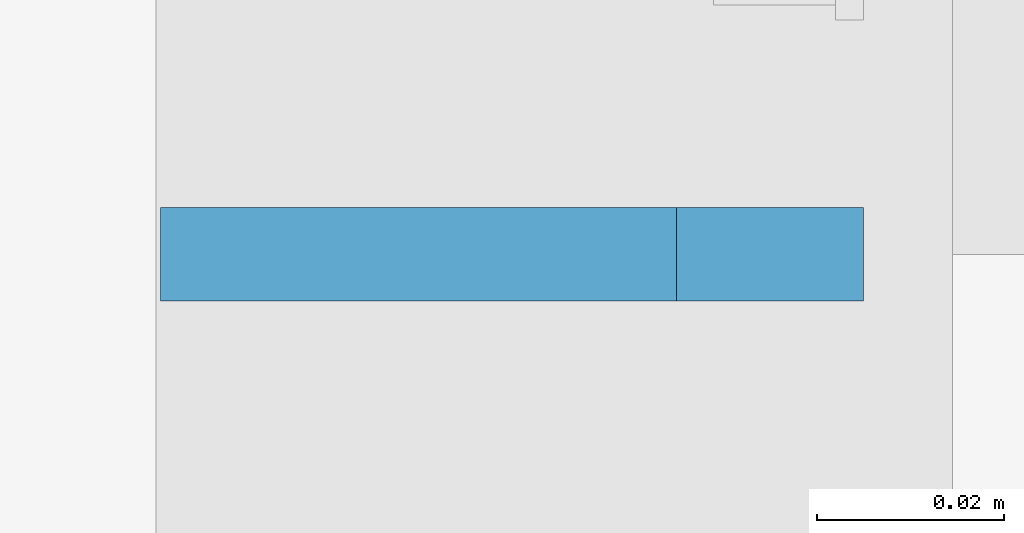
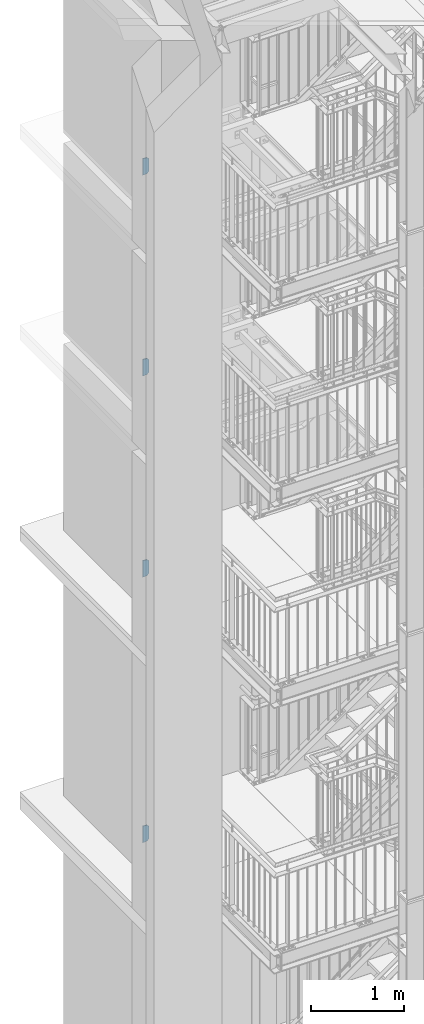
# One storey, part 180 of 831: 4 plates, 8 openings.
"""IFC2X3 building model written with IfcOpenShell, lengths in millimetres."""

import ifcopenshell
import ifcopenshell.guid

model = None  # the IFC model being written
_history = None  # IfcOwnerHistory: only IFC2X3 demands one
_inside = {}  # id of a spatial element -> (the spatial element, [elements in it])
_under = {}  # id of a project, library or spatial element -> (it, [spatial elements below it])
_declared = {}  # id of a project -> (the project, [libraries it declares])
_typed = {}  # id of a type object -> (the type object, [elements of that type])
_made_of = {}  # id of a material, layer set ... -> (it, [elements and type objects made of it])


def new_model(schema):
    """Start an empty IFC model of exactly this schema.

    Asked for "IFC4X3", IfcOpenShell would pick the latest addendum, in which some entities
    have other attributes; the version numbers below select the first issue.
    IFC2X3 requires an IfcOwnerHistory on every rooted entity: one is made here for all.
    """
    global model, _history
    if schema == "IFC4X3":
        model = ifcopenshell.file(schema_version=(4, 3, 0, 0))
    else:
        model = ifcopenshell.file(schema=schema)
    _inside.clear()
    _under.clear()
    _declared.clear()
    _typed.clear()
    _made_of.clear()
    _history = None
    if model.schema == "IFC2X3":
        org = make("IfcOrganization", Name="unknown")
        user = make(
            "IfcPersonAndOrganization",
            ThePerson=make("IfcPerson", FamilyName="unknown"),
            TheOrganization=org,
        )
        app = make(
            "IfcApplication",
            ApplicationDeveloper=org,
            Version="unknown",
            ApplicationFullName="unknown",
            ApplicationIdentifier="unknown",
        )
        _history = make(
            "IfcOwnerHistory",
            OwningUser=user,
            OwningApplication=app,
            ChangeAction="ADDED",
            CreationDate=0,
        )
    return model


def make(cls, **values):
    """One entity of the class cls with the attributes given. An attribute that is None is left unset."""
    return model.create_entity(
        cls, **{name: value for name, value in values.items() if value is not None}
    )


def entity(cls, *values):
    """Any entity or typed value of the class cls, its attributes in the order of the schema. None: left unset."""
    e = model.create_entity(cls)
    for i, value in enumerate(values):
        if value is not None:
            e[i] = value
    return e


def rooted(cls, **values):
    """An entity with a GlobalId (a new one), such as an element, a storey or a relation."""
    return make(cls, GlobalId=ifcopenshell.guid.new(), OwnerHistory=_history, **values)


def si_unit(unit_type, name, prefix=None):
    """IfcSIUnit, for example si_unit("LENGTHUNIT", "METRE", prefix="MILLI")."""
    return make("IfcSIUnit", UnitType=unit_type, Prefix=prefix, Name=name)


def converted_unit(unit_type, name, factor, base, dimensions=None, offset=None):
    """IfcConversionBasedUnit, such as the inch: factor (a typed value) times the base unit."""
    return make(
        "IfcConversionBasedUnit"
        if offset is None
        else "IfcConversionBasedUnitWithOffset",
        ConversionOffset=offset,
        Dimensions=None
        if dimensions is None
        else entity("IfcDimensionalExponents", *dimensions),
        UnitType=unit_type,
        Name=name,
        ConversionFactor=make(
            "IfcMeasureWithUnit", ValueComponent=factor, UnitComponent=base
        ),
    )


def assignment(units):
    """IfcUnitAssignment: the units of a project."""
    return None if units is None else make("IfcUnitAssignment", Units=units)


def point(xyz):
    """IfcCartesianPoint."""
    return None if xyz is None else make("IfcCartesianPoint", Coordinates=xyz)


def direction(xyz):
    """IfcDirection."""
    return None if xyz is None else make("IfcDirection", DirectionRatios=xyz)


def frame(location, z_axis=None, x_axis=None):
    """IfcAxis2Placement3D, a coordinate frame: its origin and axes. An axis left out is left unset."""
    return make(
        "IfcAxis2Placement3D",
        Location=point(location),
        Axis=direction(z_axis),
        RefDirection=direction(x_axis),
    )


def origin():
    """The frame at (0, 0, 0) with its axes left unset."""
    return frame((0.0, 0.0, 0.0))


def origin_with_axes():
    """The frame at (0, 0, 0) with the z axis (0, 0, 1) and the x axis (1, 0, 0) written out."""
    return frame((0.0, 0.0, 0.0), z_axis=(0.0, 0.0, 1.0), x_axis=(1.0, 0.0, 0.0))


def place(relative_to, where):
    """IfcLocalPlacement: puts the frame where relative to a parent placement (None: the world)."""
    return make(
        "IfcLocalPlacement", PlacementRelTo=relative_to, RelativePlacement=where
    )


def context(
    kind, dimensions, precision=None, world=None, true_north=None, identifier=None
):
    """IfcGeometricRepresentationContext, for example the 3D "Model" context."""
    return make(
        "IfcGeometricRepresentationContext",
        ContextIdentifier=identifier,
        ContextType=kind,
        CoordinateSpaceDimension=dimensions,
        Precision=precision,
        WorldCoordinateSystem=world,
        TrueNorth=true_north,
    )


def project(units=None, contexts=None):
    """IfcProject with its units and contexts."""
    return rooted(
        "IfcProject",
        Name="project",
        RepresentationContexts=contexts,
        UnitsInContext=assignment(units),
    )


def spatial(cls, under=None, at=None, **own):
    """A site, building, storey or space (cls), placed at a placement, below another one or the project."""
    s = rooted(cls, ObjectPlacement=at, **own)
    if under is not None:
        _under.setdefault(under.id(), (under, []))[1].append(s)
    return s


def polyline(points):
    """IfcPolyline through the points."""
    return make("IfcPolyline", Points=[point(p) for p in points])


def outline(outer, holes=None, kind="AREA"):
    """IfcArbitraryClosedProfileDef: a profile drawn as a closed curve; with holes, ...WithVoids."""
    if holes is None:
        return make("IfcArbitraryClosedProfileDef", ProfileType=kind, OuterCurve=outer)
    return make(
        "IfcArbitraryProfileDefWithVoids",
        ProfileType=kind,
        OuterCurve=outer,
        InnerCurves=holes,
    )


def extrude(swept, where, along, depth):
    """IfcExtrudedAreaSolid: the profile swept, set in the frame where, extruded along a direction by depth."""
    return make(
        "IfcExtrudedAreaSolid",
        SweptArea=swept,
        Position=where,
        ExtrudedDirection=direction(along),
        Depth=depth,
    )


def shape(context_of_items, identifier, shape_type, items):
    """IfcShapeRepresentation: the items that make up one representation, for example the "Body"."""
    return make(
        "IfcShapeRepresentation",
        ContextOfItems=context_of_items,
        RepresentationIdentifier=identifier,
        RepresentationType=shape_type,
        Items=items,
    )


def material(Name=None, Category=None):
    """IfcMaterial."""
    return make("IfcMaterial", Name=Name, Category=Category)


def layer(
    of_material, thickness, ventilated=None, Name=None, Category=None, Priority=None
):
    """IfcMaterialLayer: one layer of a wall or slab, of a material (None: an air gap)."""
    return make(
        "IfcMaterialLayer",
        Material=of_material,
        LayerThickness=thickness,
        IsVentilated=ventilated,
        Name=Name,
        Category=Category,
        Priority=Priority,
    )


def layer_set(layers, Name=None):
    """IfcMaterialLayerSet."""
    return make("IfcMaterialLayerSet", MaterialLayers=layers, LayerSetName=Name)


def made_of(thing, what):
    """Note that an element or type object is made of a material, layer set ...; save() writes the relation."""
    if what is not None:
        _made_of.setdefault(what.id(), (what, []))[1].append(thing)
    return thing


def element(
    cls,
    number,
    at=None,
    inside=None,
    cuts=None,
    type_object=None,
    material=None,
    context=None,
    identifier="Body",
    shape_type=None,
    held_by="IfcProductDefinitionShape",
    body=None,
    shapes=None,
    **own,
):
    """One element of the class cls, such as IfcWall. Its Tag is "e" and its number.

    at: its placement. inside: the storey or other place that contains it. cuts: it is an
    opening in that element (IfcRelVoidsElement). A single representation is given by context,
    identifier, shape_type and body (its items); several are given by shapes. held_by: the class
    of the entity that holds the representations. save() writes the other relations.
    """
    e = rooted(cls, Tag="e%d" % number, ObjectPlacement=at, **own)
    if body is not None:
        shapes = [shape(context, identifier, shape_type, body)]
    if shapes is not None:
        e.Representation = make(held_by, Representations=shapes)
    if inside is not None:
        _inside.setdefault(inside.id(), (inside, []))[1].append(e)
    if cuts is not None:
        rooted(
            "IfcRelVoidsElement", RelatingBuildingElement=cuts, RelatedOpeningElement=e
        )
    if type_object is not None:
        _typed.setdefault(type_object.id(), (type_object, []))[1].append(e)
    return made_of(e, material)


def aggregate(whole, parts):
    """IfcRelAggregates: a whole, such as a stair, and the parts it consists of."""
    return rooted("IfcRelAggregates", RelatingObject=whole, RelatedObjects=parts)


def save(model, path):
    """Write the relations noted so far, then the file.

    IfcRelAggregates (storeys below a building ...), IfcRelContainedInSpatialStructure (elements
    in a storey), IfcRelDefinesByType, IfcRelAssociatesMaterial and IfcRelDeclares: one each for
    every whole, place, type object, material and project.
    """
    for whole, parts in _under.values():
        aggregate(whole, parts)
    for where, things in _inside.values():
        rooted(
            "IfcRelContainedInSpatialStructure",
            RelatedElements=things,
            RelatingStructure=where,
        )
    for kind, things in _typed.values():
        rooted("IfcRelDefinesByType", RelatedObjects=things, RelatingType=kind)
    for what, things in _made_of.values():
        rooted("IfcRelAssociatesMaterial", RelatedObjects=things, RelatingMaterial=what)
    for by, libraries in _declared.values():
        rooted("IfcRelDeclares", RelatingContext=by, RelatedDefinitions=libraries)
    model.write(path)


model = new_model("IFC2X3")

# Units and contexts
model_context = context("Model", 3, precision=1e-09, world=origin_with_axes())
ifc_project = project(units=[si_unit("LENGTHUNIT", "METRE", prefix="MILLI"), si_unit("AREAUNIT", "SQUARE_METRE"), si_unit("VOLUMEUNIT", "CUBIC_METRE"), converted_unit("PLANEANGLEUNIT", "DEGREE", entity("IfcPlaneAngleMeasure", 0.01745329), si_unit("PLANEANGLEUNIT", "RADIAN"), dimensions=[0, 0, 0, 0, 0, 0, 0])], contexts=[model_context])

# Site, building, storey
site_placement = place(None, origin_with_axes())
site = spatial("IfcSite", under=ifc_project, at=site_placement, Name="Site", CompositionType="ELEMENT")
building_placement = place(site_placement, origin_with_axes())
building = spatial("IfcBuilding", under=site, at=building_placement, Name="Struktur 1", CompositionType="ELEMENT")
storey_placement = place(building_placement, origin_with_axes())
storey = spatial("IfcBuildingStorey", under=building, at=storey_placement, Name="Default Storey", CompositionType="ELEMENT", Elevation=0.0)

# Plate, openings
ifc_material = material(Name="S235JR")
ifc_layer = layer(ifc_material, 10.0)
ifc_layer_set = layer_set([ifc_layer], Name="S235JR")
plate_1_placement = place(None, frame((3312.213402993, 7316.736971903, 3829.855161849), z_axis=(0.0, -1.0, 0.0), x_axis=(-0.996815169, 0.0, 0.079746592)))
plate_1 = element("IfcPlate", 1, at=plate_1_placement, inside=storey, material=ifc_layer_set, Name="Stiffener#1", ObjectType="Stiffener#1", context=model_context, shape_type="SweptSolid", body=[
    extrude(outline(polyline([(0.0, 0.0), (75.239625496, 0.0), (57.877952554, 217.017159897), (-16.404697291, 205.05517107), (0.0, 0.0)])), origin_with_axes(), (0.0, 0.0, 1.0), 10.0),
])
opening_1_placement = place(plate_1_placement, frame((0.0, 0.0, -0.01), z_axis=(0.0, 0.0, 1.0), x_axis=(1.0, 0.0, 0.0)))
element("IfcOpeningElement", 2, at=opening_1_placement, cuts=plate_1, ObjectType="Opening", context=model_context, shape_type="SweptSolid", body=[
    extrude(outline(polyline([(-16.404697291, 205.05517107), (-14.809765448, 185.118867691), (3.34092195, 208.23487558), (-16.404697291, 205.05517107)])), origin(), (0.0, 0.0, 1.0), 10.02),
])
opening_2_placement = place(plate_1_placement, frame((0.0, 0.0, -0.01), z_axis=(0.0, 0.0, 1.0), x_axis=(1.0, 0.0, 0.0)))
element("IfcOpeningElement", 3, at=opening_2_placement, cuts=plate_1, ObjectType="Opening", context=model_context, shape_type="SweptSolid", body=[
    extrude(outline(polyline([(0.0, 0.0), (20.0, 0.0), (-1.594931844, 19.936303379), (0.0, 0.0)])), origin(), (0.0, 0.0, 1.0), 10.02),
])

plate_2_placement = place(None, frame((3312.213402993, 7316.736971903, 7302.855161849), z_axis=(0.0, -1.0, 0.0), x_axis=(-0.996815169, 0.0, 0.079746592)))
plate_2 = element("IfcPlate", 4, at=plate_2_placement, inside=storey, material=ifc_layer_set, Name="Stiffener#1", ObjectType="Stiffener#1", context=model_context, shape_type="SweptSolid", body=[
    extrude(outline(polyline([(0.0, 0.0), (75.239625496, 0.0), (57.877952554, 217.017159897), (-16.404697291, 205.05517107), (0.0, 0.0)])), origin_with_axes(), (0.0, 0.0, 1.0), 10.0),
])
opening_3_placement = place(plate_2_placement, frame((0.0, 0.0, -0.01), z_axis=(0.0, 0.0, 1.0), x_axis=(1.0, 0.0, 0.0)))
element("IfcOpeningElement", 5, at=opening_3_placement, cuts=plate_2, ObjectType="Opening", context=model_context, shape_type="SweptSolid", body=[
    extrude(outline(polyline([(-16.404697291, 205.05517107), (-14.809765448, 185.118867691), (3.34092195, 208.23487558), (-16.404697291, 205.05517107)])), origin(), (0.0, 0.0, 1.0), 10.02),
])
opening_4_placement = place(plate_2_placement, frame((0.0, 0.0, -0.01), z_axis=(0.0, 0.0, 1.0), x_axis=(1.0, 0.0, 0.0)))
element("IfcOpeningElement", 6, at=opening_4_placement, cuts=plate_2, ObjectType="Opening", context=model_context, shape_type="SweptSolid", body=[
    extrude(outline(polyline([(0.0, 0.0), (20.0, 0.0), (-1.594931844, 19.936303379), (0.0, 0.0)])), origin(), (0.0, 0.0, 1.0), 10.02),
])

plate_3_placement = place(None, frame((3312.213402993, 7316.736971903, 9934.855161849), z_axis=(0.0, -1.0, 0.0), x_axis=(-0.996815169, 0.0, 0.079746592)))
plate_3 = element("IfcPlate", 7, at=plate_3_placement, inside=storey, material=ifc_layer_set, Name="Stiffener#1", ObjectType="Stiffener#1", context=model_context, shape_type="SweptSolid", body=[
    extrude(outline(polyline([(0.0, 0.0), (75.239625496, 0.0), (57.877952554, 217.017159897), (-16.404697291, 205.05517107), (0.0, 0.0)])), origin_with_axes(), (0.0, 0.0, 1.0), 10.0),
])
opening_5_placement = place(plate_3_placement, frame((0.0, 0.0, -0.01), z_axis=(0.0, 0.0, 1.0), x_axis=(1.0, 0.0, 0.0)))
element("IfcOpeningElement", 8, at=opening_5_placement, cuts=plate_3, ObjectType="Opening", context=model_context, shape_type="SweptSolid", body=[
    extrude(outline(polyline([(-16.404697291, 205.05517107), (-14.809765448, 185.118867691), (3.34092195, 208.23487558), (-16.404697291, 205.05517107)])), origin(), (0.0, 0.0, 1.0), 10.02),
])
opening_6_placement = place(plate_3_placement, frame((0.0, 0.0, -0.01), z_axis=(0.0, 0.0, 1.0), x_axis=(1.0, 0.0, 0.0)))
element("IfcOpeningElement", 9, at=opening_6_placement, cuts=plate_3, ObjectType="Opening", context=model_context, shape_type="SweptSolid", body=[
    extrude(outline(polyline([(0.0, 0.0), (20.0, 0.0), (-1.594931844, 19.936303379), (0.0, 0.0)])), origin(), (0.0, 0.0, 1.0), 10.02),
])

plate_4_placement = place(None, frame((3312.213402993, 7316.736971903, 12561.855161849), z_axis=(0.0, -1.0, 0.0), x_axis=(-0.996815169, 0.0, 0.079746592)))
plate_4 = element("IfcPlate", 10, at=plate_4_placement, inside=storey, material=ifc_layer_set, Name="Stiffener#1", ObjectType="Stiffener#1", context=model_context, shape_type="SweptSolid", body=[
    extrude(outline(polyline([(0.0, 0.0), (75.239625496, 0.0), (57.877952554, 217.017159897), (-16.404697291, 205.05517107), (0.0, 0.0)])), origin_with_axes(), (0.0, 0.0, 1.0), 10.0),
])
opening_7_placement = place(plate_4_placement, frame((0.0, 0.0, -0.01), z_axis=(0.0, 0.0, 1.0), x_axis=(1.0, 0.0, 0.0)))
element("IfcOpeningElement", 11, at=opening_7_placement, cuts=plate_4, ObjectType="Opening", context=model_context, shape_type="SweptSolid", body=[
    extrude(outline(polyline([(-16.404697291, 205.05517107), (-14.809765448, 185.118867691), (3.34092195, 208.23487558), (-16.404697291, 205.05517107)])), origin(), (0.0, 0.0, 1.0), 10.02),
])
opening_8_placement = place(plate_4_placement, frame((0.0, 0.0, -0.01), z_axis=(0.0, 0.0, 1.0), x_axis=(1.0, 0.0, 0.0)))
element("IfcOpeningElement", 12, at=opening_8_placement, cuts=plate_4, ObjectType="Opening", context=model_context, shape_type="SweptSolid", body=[
    extrude(outline(polyline([(0.0, 0.0), (20.0, 0.0), (-1.594931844, 19.936303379), (0.0, 0.0)])), origin(), (0.0, 0.0, 1.0), 10.02),
])

save(model, "model.ifc")
